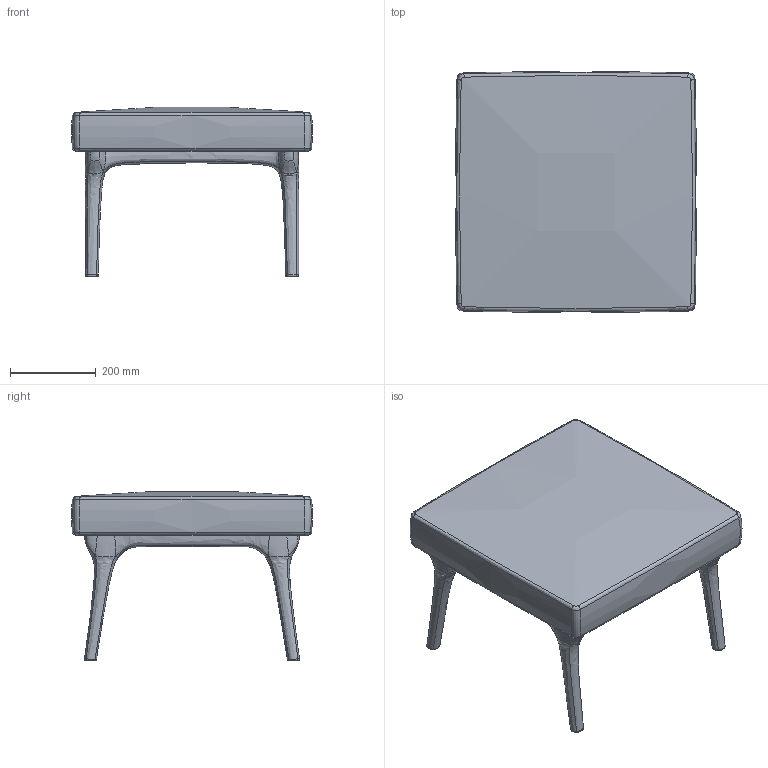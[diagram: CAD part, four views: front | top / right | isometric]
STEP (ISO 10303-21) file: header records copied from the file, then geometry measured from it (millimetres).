
FILE_DESCRIPTION (( 'STEP AP214' ), '1' );
FILE_NAME ('ZIO Footstool.STEP', '2014-09-17T15:07:56', ( '' ), ( '' ), 'SwSTEP 2.0', 'SolidWorks 2014', '' );
FILE_SCHEMA (( 'AUTOMOTIVE_DESIGN' ));
Length unit declared in the file: millimetre
Products named in the file (1): ZIO Footstool
Bounding box: 563.27 x 563.27 x 395.22 mm (x, y, z)
Volume: 33466031 mm3; surface area: 1145487.1 mm2
Topology: 2 solids, 2 shells, 104 faces, 306 edges, 204 vertices
Faces by surface type: bspline 99, plane 5
Entity records: 26841 total; most frequent: CARTESIAN_POINT 25015, ORIENTED_EDGE 612, EDGE_CURVE 306, B_SPLINE_CURVE_WITH_KNOTS 220, VERTEX_POINT 204, ADVANCED_FACE 104, FACE_OUTER_BOUND 104, EDGE_LOOP 104
